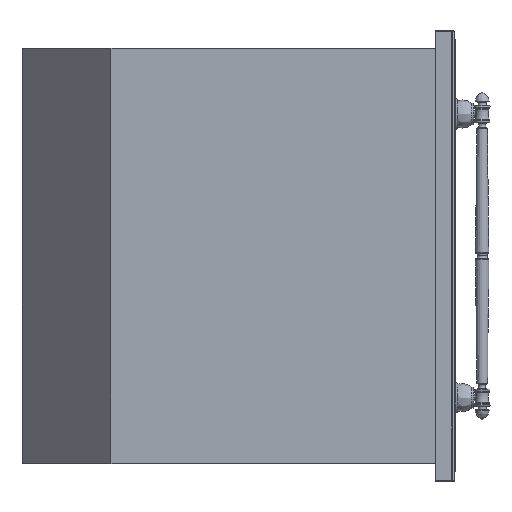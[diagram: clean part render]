
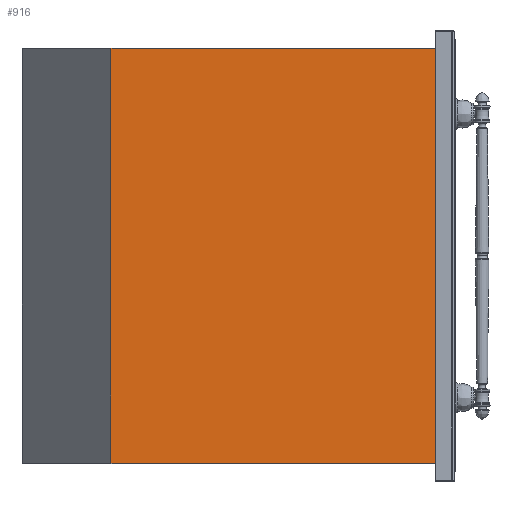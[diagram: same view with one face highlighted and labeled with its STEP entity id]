
A CAD part, top view. The second image highlights one B-rep face of the part: STEP entity #916.
In plain terms, the highlighted planar face has unit normal (0, 0, 1).
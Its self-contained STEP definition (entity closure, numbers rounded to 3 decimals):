
#916=ADVANCED_FACE('',(#1410),#1254,.T.);
#1254=PLANE('',#5590);
#1410=FACE_OUTER_BOUND('',#1653,.T.);
#1653=EDGE_LOOP('',(#2096,#2097,#2098,#2099));
#2096=ORIENTED_EDGE('',*,*,#4066,.F.);
#2097=ORIENTED_EDGE('',*,*,#4067,.F.);
#2098=ORIENTED_EDGE('',*,*,#4068,.T.);
#2099=ORIENTED_EDGE('',*,*,#4069,.T.);
#3554=VERTEX_POINT('',#7965);
#3555=VERTEX_POINT('',#7966);
#3556=VERTEX_POINT('',#7968);
#3557=VERTEX_POINT('',#7970);
#4066=EDGE_CURVE('',#3554,#3555,#4795,.T.);
#4067=EDGE_CURVE('',#3556,#3554,#4796,.T.);
#4068=EDGE_CURVE('',#3556,#3557,#4797,.T.);
#4069=EDGE_CURVE('',#3557,#3555,#4798,.T.);
#4795=LINE('',#7964,#5192);
#4796=LINE('',#7967,#5193);
#4797=LINE('',#7969,#5194);
#4798=LINE('',#7971,#5195);
#5192=VECTOR('',#6250,1.);
#5193=VECTOR('',#6251,1.);
#5194=VECTOR('',#6252,1.);
#5195=VECTOR('',#6253,1.);
#5590=AXIS2_PLACEMENT_3D('',#7972,#6254,#6255);
#6250=DIRECTION('',(-1.,0.,0.));
#6251=DIRECTION('',(0.,-1.,0.));
#6252=DIRECTION('',(-1.,0.,0.));
#6253=DIRECTION('',(0.,-1.,0.));
#6254=DIRECTION('',(0.,0.,1.));
#6255=DIRECTION('',(1.,0.,0.));
#7964=CARTESIAN_POINT('',(523.657,0.,615.211));
#7965=CARTESIAN_POINT('',(523.657,0.,615.211));
#7966=CARTESIAN_POINT('',(93.657,0.,615.211));
#7967=CARTESIAN_POINT('',(523.657,550.,615.211));
#7968=CARTESIAN_POINT('',(523.657,550.,615.211));
#7969=CARTESIAN_POINT('',(523.657,550.,615.211));
#7970=CARTESIAN_POINT('',(93.657,550.,615.211));
#7971=CARTESIAN_POINT('',(93.657,550.,615.211));
#7972=CARTESIAN_POINT('',(523.657,550.,615.211));
